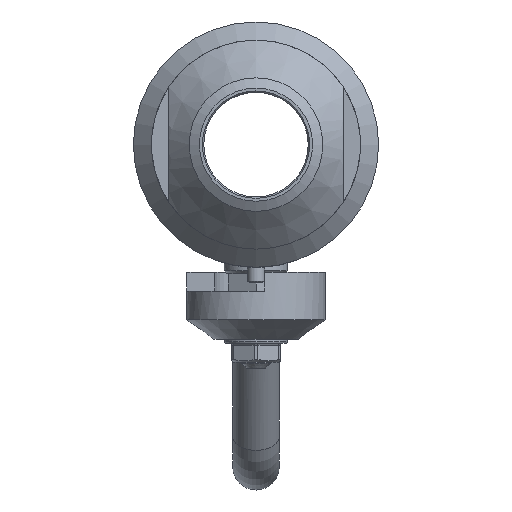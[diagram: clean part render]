
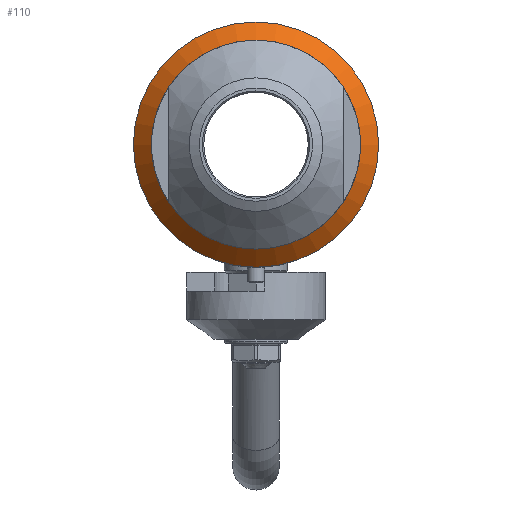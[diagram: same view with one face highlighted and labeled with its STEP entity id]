
A CAD part, left-side view. The second image highlights one B-rep face of the part: STEP entity #110.
In plain terms, the highlighted conical face has half-angle 45 degrees and reference radius 39.125 mm.
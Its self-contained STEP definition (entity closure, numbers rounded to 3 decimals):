
#110=ADVANCED_FACE('',(#970),#972,.T.);
#970=FACE_OUTER_BOUND('',#971,.T.);
#971=EDGE_LOOP('',(#1963,#1964,#1965,#1966,#1967));
#972=CONICAL_SURFACE('',#973,39.125,0.785);
#973=AXIS2_PLACEMENT_3D('',#974,#975,#976);
#974=CARTESIAN_POINT('',(-25.875,0.,0.));
#975=DIRECTION('',(1.,0.,0.));
#976=DIRECTION('',(0.,1.,0.));
#1963=ORIENTED_EDGE('',*,*,#3092,.F.);
#1964=ORIENTED_EDGE('',*,*,#3093,.F.);
#1965=ORIENTED_EDGE('',*,*,#3094,.T.);
#1966=ORIENTED_EDGE('',*,*,#3080,.T.);
#1967=ORIENTED_EDGE('',*,*,#3094,.F.);
#3080=EDGE_CURVE('',#3360,#3360,#3362,.T.);
#3092=EDGE_CURVE('',#3378,#3379,#3380,.T.);
#3093=EDGE_CURVE('',#3379,#3378,#3381,.T.);
#3094=EDGE_CURVE('',#3379,#3360,#3382,.T.);
#3360=VERTEX_POINT('',#4204);
#3362=CIRCLE('',#4208,42.25);
#3378=VERTEX_POINT('',#4377);
#3379=VERTEX_POINT('',#4378);
#3380=CIRCLE('',#4379,36.);
#3381=CIRCLE('',#4383,36.);
#3382=LINE('',#4387,#4388);
#4204=CARTESIAN_POINT('',(-22.75,-42.25,0.));
#4208=AXIS2_PLACEMENT_3D('',#4209,#4210,#4211);
#4209=CARTESIAN_POINT('',(-22.75,0.,0.));
#4210=DIRECTION('',(-1.,0.,0.));
#4211=DIRECTION('',(0.,-1.,0.));
#4377=CARTESIAN_POINT('',(-29.,0.,36.));
#4378=CARTESIAN_POINT('',(-29.,-36.,0.));
#4379=AXIS2_PLACEMENT_3D('',#4380,#4381,#4382);
#4380=CARTESIAN_POINT('',(-29.,0.,0.));
#4381=DIRECTION('',(-1.,0.,0.));
#4382=DIRECTION('',(0.,0.,1.));
#4383=AXIS2_PLACEMENT_3D('',#4384,#4385,#4386);
#4384=CARTESIAN_POINT('',(-29.,0.,0.));
#4385=DIRECTION('',(-1.,0.,0.));
#4386=DIRECTION('',(0.,-1.,0.));
#4387=CARTESIAN_POINT('',(-29.,-36.,0.));
#4388=VECTOR('',#4389,1.);
#4389=DIRECTION('',(0.707,-0.707,0.));
